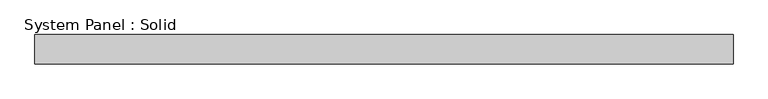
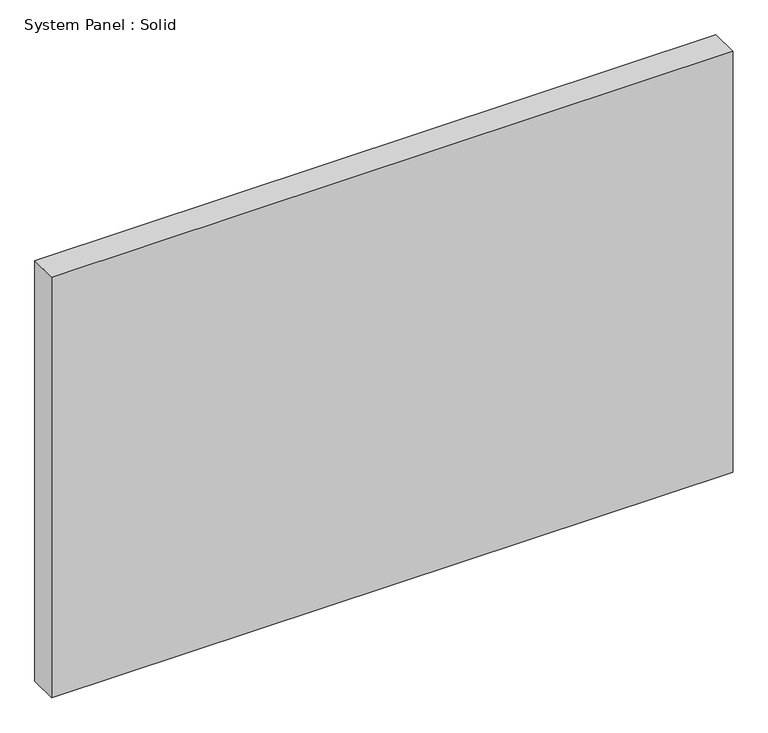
"""IFC4 building model written with IfcOpenShell, lengths in millimetres: plate geometry, System Panel : Solid."""

import ifcopenshell
import ifcopenshell.guid

model = None  # the IFC model being written
_history = None  # IfcOwnerHistory: only IFC2X3 demands one
_inside = {}  # id of a spatial element -> (the spatial element, [elements in it])
_under = {}  # id of a project, library or spatial element -> (it, [spatial elements below it])
_declared = {}  # id of a project -> (the project, [libraries it declares])
_typed = {}  # id of a type object -> (the type object, [elements of that type])
_made_of = {}  # id of a material, layer set ... -> (it, [elements and type objects made of it])


def new_model(schema):
    """Start an empty IFC model of exactly this schema.

    Asked for "IFC4X3", IfcOpenShell would pick the latest addendum, in which some entities
    have other attributes; the version numbers below select the first issue.
    IFC2X3 requires an IfcOwnerHistory on every rooted entity: one is made here for all.
    """
    global model, _history
    if schema == "IFC4X3":
        model = ifcopenshell.file(schema_version=(4, 3, 0, 0))
    else:
        model = ifcopenshell.file(schema=schema)
    _inside.clear()
    _under.clear()
    _declared.clear()
    _typed.clear()
    _made_of.clear()
    _history = None
    if model.schema == "IFC2X3":
        org = make("IfcOrganization", Name="unknown")
        user = make(
            "IfcPersonAndOrganization",
            ThePerson=make("IfcPerson", FamilyName="unknown"),
            TheOrganization=org,
        )
        app = make(
            "IfcApplication",
            ApplicationDeveloper=org,
            Version="unknown",
            ApplicationFullName="unknown",
            ApplicationIdentifier="unknown",
        )
        _history = make(
            "IfcOwnerHistory",
            OwningUser=user,
            OwningApplication=app,
            ChangeAction="ADDED",
            CreationDate=0,
        )
    return model


def make(cls, **values):
    """One entity of the class cls with the attributes given. An attribute that is None is left unset."""
    return model.create_entity(
        cls, **{name: value for name, value in values.items() if value is not None}
    )


def rooted(cls, **values):
    """An entity with a GlobalId (a new one), such as an element, a storey or a relation."""
    return make(cls, GlobalId=ifcopenshell.guid.new(), OwnerHistory=_history, **values)


def si_unit(unit_type, name, prefix=None):
    """IfcSIUnit, for example si_unit("LENGTHUNIT", "METRE", prefix="MILLI")."""
    return make("IfcSIUnit", UnitType=unit_type, Prefix=prefix, Name=name)


def assignment(units):
    """IfcUnitAssignment: the units of a project."""
    return None if units is None else make("IfcUnitAssignment", Units=units)


def point(xyz):
    """IfcCartesianPoint."""
    return None if xyz is None else make("IfcCartesianPoint", Coordinates=xyz)


def direction(xyz):
    """IfcDirection."""
    return None if xyz is None else make("IfcDirection", DirectionRatios=xyz)


def frame(location, z_axis=None, x_axis=None):
    """IfcAxis2Placement3D, a coordinate frame: its origin and axes. An axis left out is left unset."""
    return make(
        "IfcAxis2Placement3D",
        Location=point(location),
        Axis=direction(z_axis),
        RefDirection=direction(x_axis),
    )


def origin():
    """The frame at (0, 0, 0) with its axes left unset."""
    return frame((0.0, 0.0, 0.0))


def origin_with_axes():
    """The frame at (0, 0, 0) with the z axis (0, 0, 1) and the x axis (1, 0, 0) written out."""
    return frame((0.0, 0.0, 0.0), z_axis=(0.0, 0.0, 1.0), x_axis=(1.0, 0.0, 0.0))


def place(relative_to, where):
    """IfcLocalPlacement: puts the frame where relative to a parent placement (None: the world)."""
    return make(
        "IfcLocalPlacement", PlacementRelTo=relative_to, RelativePlacement=where
    )


def context(
    kind, dimensions, precision=None, world=None, true_north=None, identifier=None
):
    """IfcGeometricRepresentationContext, for example the 3D "Model" context."""
    return make(
        "IfcGeometricRepresentationContext",
        ContextIdentifier=identifier,
        ContextType=kind,
        CoordinateSpaceDimension=dimensions,
        Precision=precision,
        WorldCoordinateSystem=world,
        TrueNorth=true_north,
    )


def project(units=None, contexts=None):
    """IfcProject with its units and contexts."""
    return rooted(
        "IfcProject",
        Name="project",
        RepresentationContexts=contexts,
        UnitsInContext=assignment(units),
    )


def spatial(cls, under=None, at=None, **own):
    """A site, building, storey or space (cls), placed at a placement, below another one or the project."""
    s = rooted(cls, ObjectPlacement=at, **own)
    if under is not None:
        _under.setdefault(under.id(), (under, []))[1].append(s)
    return s


def polyline(points):
    """IfcPolyline through the points."""
    return make("IfcPolyline", Points=[point(p) for p in points])


def outline(outer, holes=None, kind="AREA"):
    """IfcArbitraryClosedProfileDef: a profile drawn as a closed curve; with holes, ...WithVoids."""
    if holes is None:
        return make("IfcArbitraryClosedProfileDef", ProfileType=kind, OuterCurve=outer)
    return make(
        "IfcArbitraryProfileDefWithVoids",
        ProfileType=kind,
        OuterCurve=outer,
        InnerCurves=holes,
    )


def extrude(swept, where, along, depth):
    """IfcExtrudedAreaSolid: the profile swept, set in the frame where, extruded along a direction by depth."""
    return make(
        "IfcExtrudedAreaSolid",
        SweptArea=swept,
        Position=where,
        ExtrudedDirection=direction(along),
        Depth=depth,
    )


def shape(context_of_items, identifier, shape_type, items):
    """IfcShapeRepresentation: the items that make up one representation, for example the "Body"."""
    return make(
        "IfcShapeRepresentation",
        ContextOfItems=context_of_items,
        RepresentationIdentifier=identifier,
        RepresentationType=shape_type,
        Items=items,
    )


def source(mapping_origin, context_of_items, identifier, shape_type, items):
    """IfcRepresentationMap: a shape defined once, which mapped items show again and again."""
    return make(
        "IfcRepresentationMap",
        MappingOrigin=mapping_origin,
        MappedRepresentation=shape(context_of_items, identifier, shape_type, items),
    )


def transform(
    local_origin,
    x_axis=None,
    y_axis=None,
    z_axis=None,
    scale=None,
    scale2=None,
    scale3=None,
    uniform=True,
):
    """IfcCartesianTransformationOperator3D, or its non-uniform kind. x_axis, y_axis, z_axis: its Axis1, 2, 3."""
    if uniform:
        return make(
            "IfcCartesianTransformationOperator3D",
            Axis1=direction(x_axis),
            Axis2=direction(y_axis),
            LocalOrigin=point(local_origin),
            Scale=scale,
            Axis3=direction(z_axis),
        )
    return make(
        "IfcCartesianTransformationOperator3DnonUniform",
        Axis1=direction(x_axis),
        Axis2=direction(y_axis),
        LocalOrigin=point(local_origin),
        Scale=scale,
        Axis3=direction(z_axis),
        Scale2=scale2,
        Scale3=scale3,
    )


def mapped(mapping_source, mapping_target):
    """IfcMappedItem: shows the shape of a source again, moved by a transform."""
    return make(
        "IfcMappedItem", MappingSource=mapping_source, MappingTarget=mapping_target
    )


def made_of(thing, what):
    """Note that an element or type object is made of a material, layer set ...; save() writes the relation."""
    if what is not None:
        _made_of.setdefault(what.id(), (what, []))[1].append(thing)
    return thing


def element(
    cls,
    number,
    at=None,
    inside=None,
    cuts=None,
    type_object=None,
    material=None,
    context=None,
    identifier="Body",
    shape_type=None,
    held_by="IfcProductDefinitionShape",
    body=None,
    shapes=None,
    **own,
):
    """One element of the class cls, such as IfcWall. Its Tag is "e" and its number.

    at: its placement. inside: the storey or other place that contains it. cuts: it is an
    opening in that element (IfcRelVoidsElement). A single representation is given by context,
    identifier, shape_type and body (its items); several are given by shapes. held_by: the class
    of the entity that holds the representations. save() writes the other relations.
    """
    e = rooted(cls, Tag="e%d" % number, ObjectPlacement=at, **own)
    if body is not None:
        shapes = [shape(context, identifier, shape_type, body)]
    if shapes is not None:
        e.Representation = make(held_by, Representations=shapes)
    if inside is not None:
        _inside.setdefault(inside.id(), (inside, []))[1].append(e)
    if cuts is not None:
        rooted(
            "IfcRelVoidsElement", RelatingBuildingElement=cuts, RelatedOpeningElement=e
        )
    if type_object is not None:
        _typed.setdefault(type_object.id(), (type_object, []))[1].append(e)
    return made_of(e, material)


def aggregate(whole, parts):
    """IfcRelAggregates: a whole, such as a stair, and the parts it consists of."""
    return rooted("IfcRelAggregates", RelatingObject=whole, RelatedObjects=parts)


def save(model, path):
    """Write the relations noted so far, then the file.

    IfcRelAggregates (storeys below a building ...), IfcRelContainedInSpatialStructure (elements
    in a storey), IfcRelDefinesByType, IfcRelAssociatesMaterial and IfcRelDeclares: one each for
    every whole, place, type object, material and project.
    """
    for whole, parts in _under.values():
        aggregate(whole, parts)
    for where, things in _inside.values():
        rooted(
            "IfcRelContainedInSpatialStructure",
            RelatedElements=things,
            RelatingStructure=where,
        )
    for kind, things in _typed.values():
        rooted("IfcRelDefinesByType", RelatedObjects=things, RelatingType=kind)
    for what, things in _made_of.values():
        rooted("IfcRelAssociatesMaterial", RelatedObjects=things, RelatingMaterial=what)
    for by, libraries in _declared.values():
        rooted("IfcRelDeclares", RelatingContext=by, RelatedDefinitions=libraries)
    model.write(path)


def system_panel_solid_0e2242f5(model_context):
    return source(origin(), model_context, "Body", "SweptSolid", [
        extrude(outline(polyline([(708.7366102, -49.5), (-708.7366102, -49.5), (-708.7366102, 10.5), (708.7366102, 10.5), (708.7366102, -49.5)])), origin_with_axes(), (0.0, 0.0, 1.0), 925.0),
    ])


if __name__ == "__main__":
    model = new_model("IFC4")
    model_context = context("Model", 3, world=origin())
    ifc_project = project(units=[si_unit("LENGTHUNIT", "METRE", prefix="MILLI")], contexts=[model_context])
    site = spatial("IfcSite", under=ifc_project)
    building = spatial("IfcBuilding", under=site)
    placement = place(None, origin())
    system_panel_solid_shape = system_panel_solid_0e2242f5(model_context)
    element("IfcPlate", 1, ObjectType="System Panel : Solid", at=placement, inside=building, context=model_context, shape_type="MappedRepresentation", body=[
        mapped(system_panel_solid_shape, transform((0.0, 0.0, 0.0), x_axis=(1.0, 0.0, 0.0), y_axis=(0.0, 1.0, 0.0), z_axis=(0.0, 0.0, 1.0))),
    ])
    save(model, "model.ifc")
